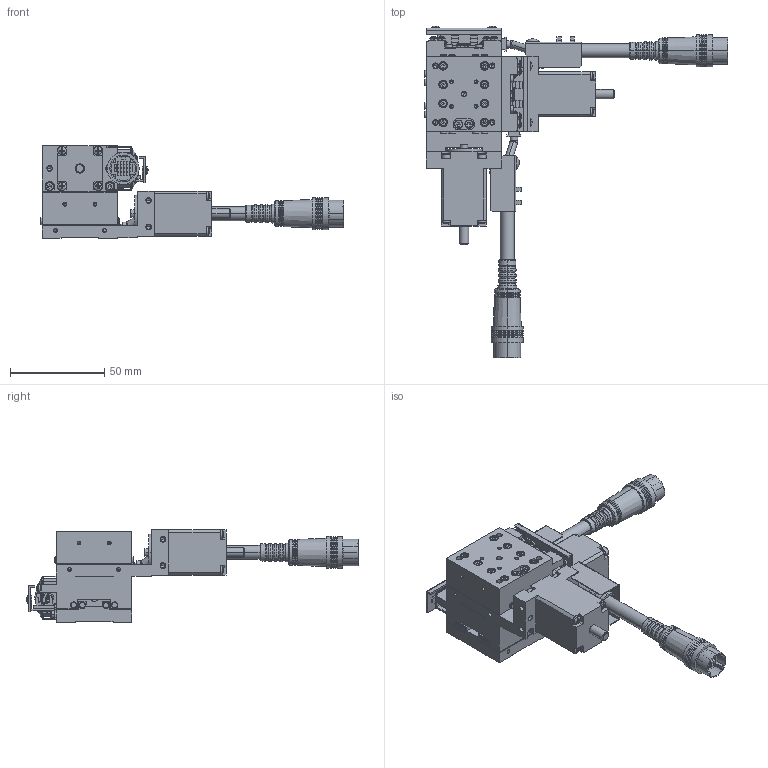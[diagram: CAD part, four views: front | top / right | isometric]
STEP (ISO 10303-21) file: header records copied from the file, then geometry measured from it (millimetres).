
FILE_DESCRIPTION (( 'STEP AP203' ), '1' );
FILE_NAME ('YA04A-R201.STEP', '2019-02-26T08:44:41', ( '' ), ( '' ), 'SwSTEP 2.0', 'SolidWorks 2018', '' );
FILE_SCHEMA (( 'CONFIG_CONTROL_DESIGN' ));
Length unit declared in the file: millimetre
Products named in the file (12): second table-Part-4; YA04A-R201; second table-Part-1; second table; base-Part-4; base-Part-3; second table-Part-2; base; second table-Part-3; base-Part-1; table; base-Part-2
Assembly tree (11 placements, depth 3):
  YA04A-R201
    base
      base-Part-1
      base-Part-2
      base-Part-3
      base-Part-4
    second table
      second table-Part-1
      second table-Part-2
      second table-Part-3
      second table-Part-4
    table
Bounding box: 161 x 176.18 x 49 mm (x, y, z)
Volume: 152454.2 mm3; surface area: 67156.8 mm2
Topology: 9 solids, 9 shells, 3581 faces, 8636 edges, 5162 vertices
Faces by surface type: plane 2131, cylinder 686, cone 624, torus 88, sphere 52
Entity records: 103740 total; most frequent: DIRECTION 18422, CARTESIAN_POINT 18265, ORIENTED_EDGE 16880, EDGE_CURVE 8440, AXIS2_PLACEMENT_3D 6587, VECTOR 5248, LINE 5248, VERTEX_POINT 5150
